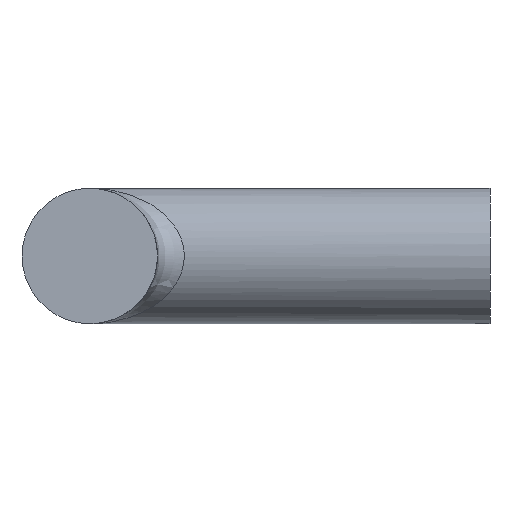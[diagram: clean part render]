
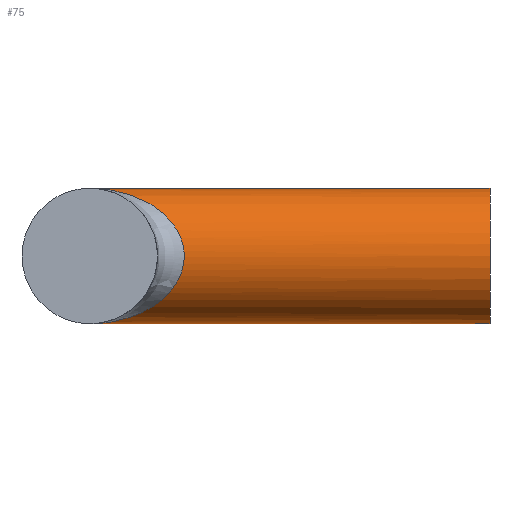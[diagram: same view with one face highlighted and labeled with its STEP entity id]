
A CAD part, front view. The second image highlights one B-rep face of the part: STEP entity #75.
In plain terms, the highlighted cylindrical face has radius 25.4 mm (diameter 50.8 mm), a full revolution.
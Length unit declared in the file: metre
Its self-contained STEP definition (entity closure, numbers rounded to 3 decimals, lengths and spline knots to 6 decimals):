
#19=ELLIPSE('',#101,0.04357,0.0254);
#20=ELLIPSE('',#102,0.04357,0.0254);
#27=ORIENTED_EDGE('',*,*,#39,.F.);
#28=ORIENTED_EDGE('',*,*,#40,.T.);
#29=ORIENTED_EDGE('',*,*,#41,.T.);
#39=EDGE_CURVE('',#46,#46,#49,.T.);
#40=EDGE_CURVE('',#45,#44,#19,.T.);
#41=EDGE_CURVE('',#44,#45,#20,.T.);
#44=VERTEX_POINT('',#137);
#45=VERTEX_POINT('',#138);
#46=VERTEX_POINT('',#144);
#49=CIRCLE('',#100,0.0254);
#55=EDGE_LOOP('',(#27));
#56=EDGE_LOOP('',(#28,#29));
#65=FACE_BOUND('',#55,.T.);
#66=FACE_BOUND('',#56,.T.);
#71=CYLINDRICAL_SURFACE('',#99,0.0254);
#75=ADVANCED_FACE('',(#65,#66),#71,.T.);
#99=AXIS2_PLACEMENT_3D('',#142,#120,#121);
#100=AXIS2_PLACEMENT_3D('',#143,#122,#123);
#101=AXIS2_PLACEMENT_3D('',#145,#124,#125);
#102=AXIS2_PLACEMENT_3D('',#146,#126,#127);
#120=DIRECTION('',(-1.,0.,0.));
#121=DIRECTION('',(0.,0.,1.));
#122=DIRECTION('',(1.,0.,0.));
#123=DIRECTION('',(0.,0.,-1.));
#124=DIRECTION('',(0.583,0.812,0.));
#125=DIRECTION('',(-0.812,0.583,0.));
#126=DIRECTION('',(0.583,-0.812,0.));
#127=DIRECTION('',(-0.812,-0.583,0.));
#137=CARTESIAN_POINT('',(0.,0.,-0.0254));
#138=CARTESIAN_POINT('',(0.,0.,0.0254));
#142=CARTESIAN_POINT('',(0.15,0.,0.));
#143=CARTESIAN_POINT('',(0.15,0.,0.));
#144=CARTESIAN_POINT('',(0.15,0.,-0.0254));
#145=CARTESIAN_POINT('',(0.,0.,0.));
#146=CARTESIAN_POINT('',(0.,0.,0.));
